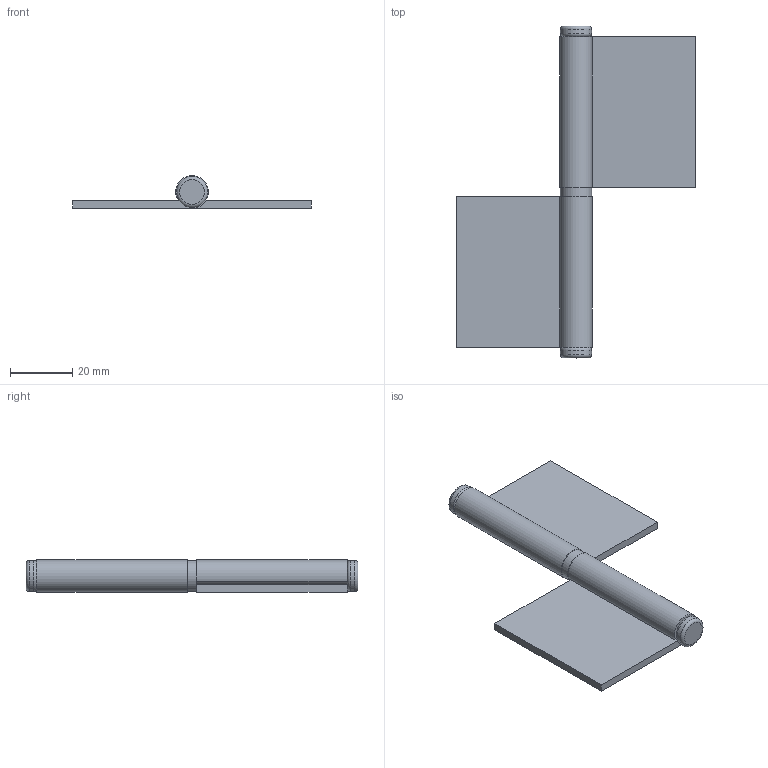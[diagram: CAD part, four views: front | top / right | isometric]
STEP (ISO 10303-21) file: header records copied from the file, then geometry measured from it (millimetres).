
FILE_DESCRIPTION(/* description */ (''),/* implementation_level */ '2;1');
FILE_NAME(/* name */ '\\NAS\db20\HBSN10077-25\DR_HBSN10177-25.stp',/* time_stamp */ '2017-08-17T13:13:46+09:00',/* author */ ('user'),/* organization */ (''),/* preprocessor_version */ 'ST-DEVELOPER v15.6',/* originating_system */ 'Autodesk Inventor 2015',/* authorisation */ '');
FILE_SCHEMA (('AUTOMOTIVE_DESIGN { 1 0 10303 214 3 1 1 }'));
Length unit declared in the file: millimetre
Products named in the file (3): DR_HBSN10177-25-P1; DR_HBSN10177-25-P2; DR_HBSN10177-25
Bounding box: 77 x 107 x 10.5 mm (x, y, z)
Volume: 17041.1 mm3; surface area: 14622.7 mm2
Topology: 5 solids, 5 shells, 33 faces, 61 edges, 39 vertices
Faces by surface type: plane 19, cylinder 9, torus 4, cone 1
Full cylindrical faces by diameter (mm): 6 x1, 7 x1, 10 x3
Entity records: 841 total; most frequent: DIRECTION 150, CARTESIAN_POINT 128, ORIENTED_EDGE 102, AXIS2_PLACEMENT_3D 61, EDGE_CURVE 51, EDGE_LOOP 46, VERTEX_POINT 39, FACE_OUTER_BOUND 33
